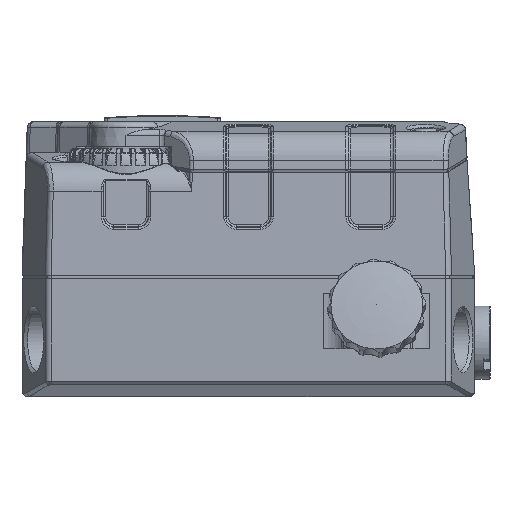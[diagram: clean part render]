
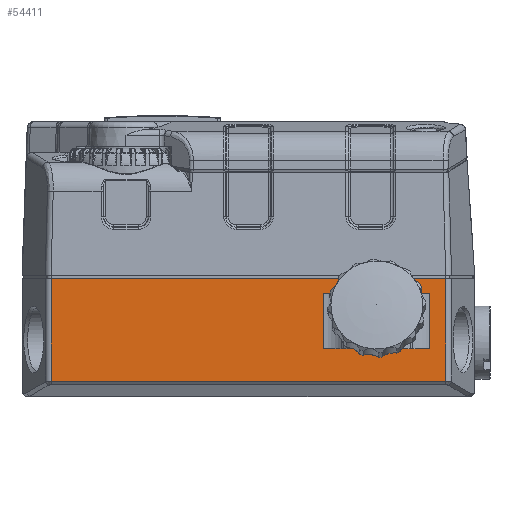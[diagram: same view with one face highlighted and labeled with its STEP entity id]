
A CAD part, left-side view. The second image highlights one B-rep face of the part: STEP entity #54411.
In plain terms, the highlighted planar face has unit normal (-1, 0, 0).
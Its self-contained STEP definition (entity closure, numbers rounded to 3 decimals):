
#9246=ORIENTED_EDGE('',*,*,#19446,.F.);
#9247=ORIENTED_EDGE('',*,*,#19444,.T.);
#9248=ORIENTED_EDGE('',*,*,#19443,.F.);
#9249=ORIENTED_EDGE('',*,*,#19439,.F.);
#9250=ORIENTED_EDGE('',*,*,#19437,.F.);
#9251=ORIENTED_EDGE('',*,*,#19673,.T.);
#9252=ORIENTED_EDGE('',*,*,#19674,.T.);
#9253=ORIENTED_EDGE('',*,*,#19675,.F.);
#19437=EDGE_CURVE('',#24907,#24908,#27826,.T.);
#19439=EDGE_CURVE('',#24909,#24910,#27828,.T.);
#19443=EDGE_CURVE('',#24910,#24911,#27829,.T.);
#19444=EDGE_CURVE('',#24912,#24911,#27830,.T.);
#19446=EDGE_CURVE('',#24912,#24909,#27831,.T.);
#19673=EDGE_CURVE('',#24907,#25050,#27926,.T.);
#19674=EDGE_CURVE('',#25050,#25051,#27927,.T.);
#19675=EDGE_CURVE('',#24908,#25051,#27928,.T.);
#24907=VERTEX_POINT('',#74618);
#24908=VERTEX_POINT('',#74622);
#24909=VERTEX_POINT('',#74626);
#24910=VERTEX_POINT('',#74627);
#24911=VERTEX_POINT('',#74632);
#24912=VERTEX_POINT('',#74636);
#25050=VERTEX_POINT('',#76054);
#25051=VERTEX_POINT('',#76058);
#27826=LINE('',#74621,#29990);
#27828=LINE('',#74625,#29992);
#27829=LINE('',#74633,#29993);
#27830=LINE('',#74635,#29994);
#27831=LINE('',#74639,#29995);
#27926=LINE('',#76055,#30090);
#27927=LINE('',#76057,#30091);
#27928=LINE('',#76059,#30092);
#29990=VECTOR('',#63101,1000.);
#29992=VECTOR('',#63105,1000.);
#29993=VECTOR('',#63114,1000.);
#29994=VECTOR('',#63117,1000.);
#29995=VECTOR('',#63122,1000.);
#30090=VECTOR('',#63441,1000.);
#30091=VECTOR('',#63444,1000.);
#30092=VECTOR('',#63445,1000.);
#31997=EDGE_LOOP('',(#9246,#9247,#9248,#9249));
#31998=EDGE_LOOP('',(#9250,#9251,#9252,#9253));
#34455=FACE_BOUND('',#31997,.T.);
#34456=FACE_BOUND('',#31998,.T.);
#36447=PLANE('',#57692);
#54411=ADVANCED_FACE('',(#34455,#34456),#36447,.T.);
#57692=AXIS2_PLACEMENT_3D('',#76056,#63442,#63443);
#63101=DIRECTION('',(0.,1.,0.));
#63105=DIRECTION('',(0.,1.,0.));
#63114=DIRECTION('',(0.,0.,-1.));
#63117=DIRECTION('',(0.,1.,0.));
#63122=DIRECTION('',(0.,0.,1.));
#63441=DIRECTION('',(0.,0.,1.));
#63442=DIRECTION('',(-1.,0.,0.));
#63443=DIRECTION('',(0.,-1.,0.));
#63444=DIRECTION('',(0.,1.,0.));
#63445=DIRECTION('',(0.,0.,1.));
#74618=CARTESIAN_POINT('',(-35.,-32.253,2.492));
#74621=CARTESIAN_POINT('',(-35.,37.,2.492));
#74622=CARTESIAN_POINT('',(-35.,32.253,2.492));
#74625=CARTESIAN_POINT('',(-35.,16.127,16.8));
#74626=CARTESIAN_POINT('',(-35.,-29.657,16.8));
#74627=CARTESIAN_POINT('',(-35.,-12.343,16.8));
#74632=CARTESIAN_POINT('',(-35.,-12.343,7.8));
#74633=CARTESIAN_POINT('',(-35.,-12.343,8.4));
#74635=CARTESIAN_POINT('',(-35.,8.,7.8));
#74636=CARTESIAN_POINT('',(-35.,-29.657,7.8));
#74639=CARTESIAN_POINT('',(-35.,-29.657,8.4));
#76054=CARTESIAN_POINT('',(-35.,-32.253,19.3));
#76055=CARTESIAN_POINT('',(-35.,-32.253,16.8));
#76056=CARTESIAN_POINT('',(-35.,37.,0.));
#76057=CARTESIAN_POINT('',(-35.,20.065,19.3));
#76058=CARTESIAN_POINT('',(-35.,32.253,19.3));
#76059=CARTESIAN_POINT('',(-35.,32.253,0.));
